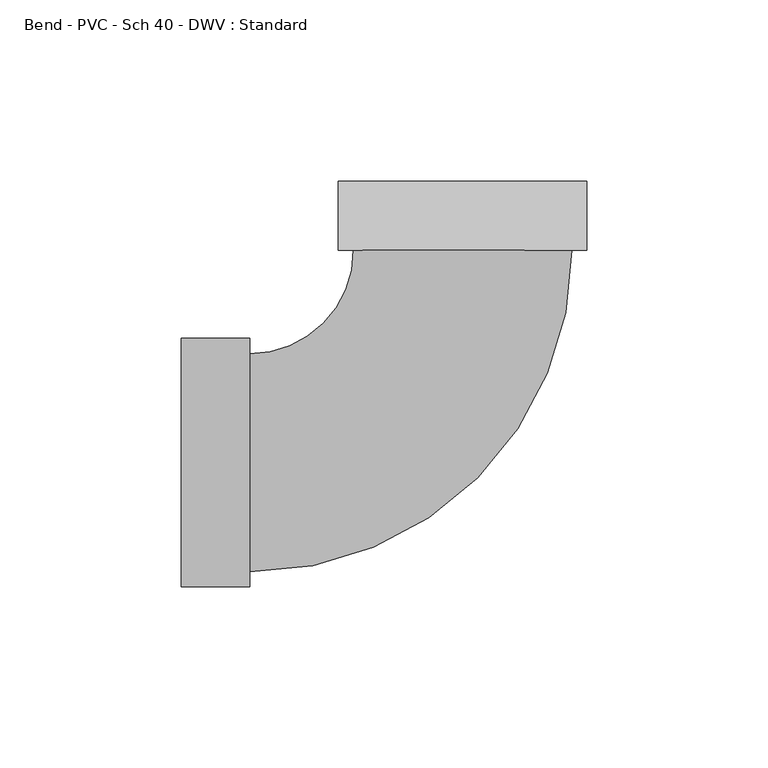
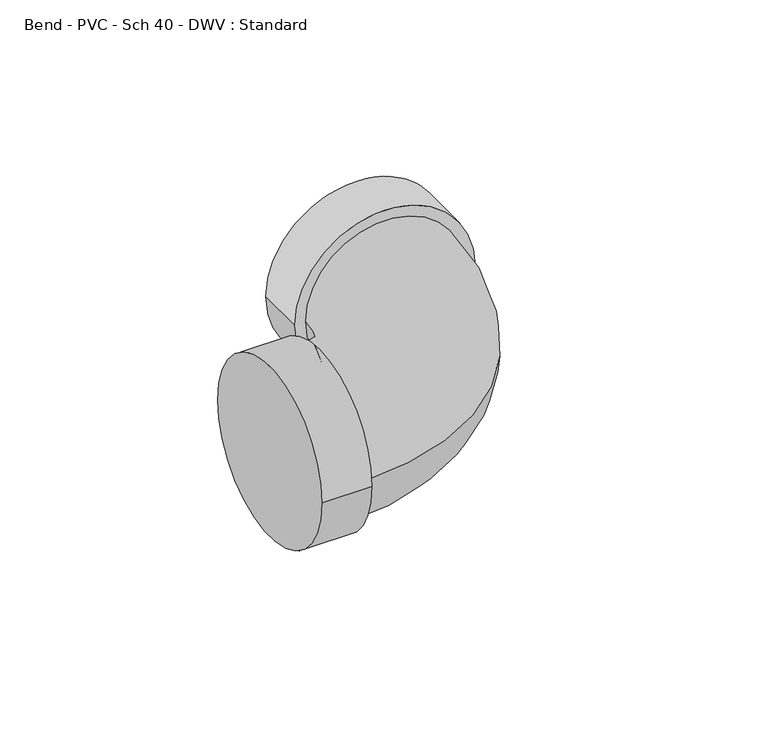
"""IFC4 building model written with IfcOpenShell, lengths in millimetres: pipe fitting geometry, Bend - PVC - Sch 40 - DWV : Standard."""

from ifc_helpers import new_model, si_unit, point, frame, origin, place, context, project, spatial, circle_curve, ellipse_curve, trimmed, source, transform, mapped, element, save
from ifc_brep_helpers import plane_surface, cylinder_surface, revolved_surface, advanced_brep


def bend_pvc_sch_40_dwv_standard_5ef2511e(model_context):
    return source(origin(), model_context, "Body", "AdvancedBrep", [
        advanced_brep(
        [(-77.8002, -34.3154, 0.0), (-77.8002, 34.3154, 0.0), (-58.7502, -34.3154, 0.0), (-58.7502, 34.3154, 0.0), (-58.7502, -30.1625, 0.0), (-58.7502, 30.1625, 0.0), (-30.1605247, 58.7512141, 0.0), (30.1644752, 58.7491859, 0.0), (34.3173752, 58.7490463, 0.0), (-34.3134247, 58.7513537, 0.0), (34.3180157, 77.7990462, 0.0), (-34.3127843, 77.8013537, 0.0)],
        [
            (0, 1, circle_curve(frame((-77.8002, 0.0, 0.0), z_axis=(-1.0, 0.0, 0.0), x_axis=(0.0, 1.0, 0.0)), 34.3154)),
            (1, 0, circle_curve(frame((-77.8002, 0.0, 0.0), z_axis=(-1.0, 0.0, 0.0), x_axis=(0.0, 1.0, 0.0)), 34.3154)),
            (2, 3, circle_curve(frame((-58.7502, 0.0, 0.0), z_axis=(1.0, 0.0, 0.0), x_axis=(0.0, 1.0, 0.0)), 34.3154)),
            (3, 2, circle_curve(frame((-58.7502, 0.0, 0.0), z_axis=(1.0, 0.0, 0.0), x_axis=(0.0, 1.0, 0.0)), 34.3154)),
            (4, 5, circle_curve(frame((-58.7502, 0.0, 0.0), z_axis=(-1.0, 0.0, 0.0), x_axis=(0.0, 1.0, 0.0)), 30.1625)),
            (5, 4, circle_curve(frame((-58.7502, 0.0, 0.0), z_axis=(-1.0, 0.0, 0.0), x_axis=(0.0, 1.0, 0.0)), 30.1625)),
            (0, 2),
            (3, 1),
            (6, 5, circle_curve(frame((-58.7502, 58.7521753, 0.0), z_axis=(0.0, 0.0, -1.0), x_axis=(0.0, -1.0, 0.0)), 28.5896753)),
            (4, 7, circle_curve(frame((-58.7502, 58.7521753, 0.0), z_axis=(0.0, 0.0, 1.0), x_axis=(0.0, -1.0, 0.0)), 88.9146753)),
            (7, 6, circle_curve(frame((0.0019752, 58.7502, 0.0), z_axis=(-3.3620906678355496e-05, -0.9999999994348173, 0.0), x_axis=(-0.9999999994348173, 3.3620906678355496e-05, 0.0)), 30.1625)),
            (6, 7, circle_curve(frame((0.0019752, 58.7502, 0.0), z_axis=(-3.3620906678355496e-05, -0.9999999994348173, 0.0), x_axis=(-0.9999999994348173, 3.3620906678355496e-05, 0.0)), 30.1625)),
            (8, 9, circle_curve(frame((0.0019752, 58.7502, 0.0), z_axis=(-3.362090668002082e-05, -0.9999999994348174, 0.0), x_axis=(-0.9999999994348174, 3.362090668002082e-05, 0.0)), 34.3154)),
            (9, 8, circle_curve(frame((0.0019752, 58.7502, 0.0), z_axis=(-3.362090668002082e-05, -0.9999999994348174, 0.0), x_axis=(-0.9999999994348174, 3.362090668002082e-05, 0.0)), 34.3154)),
            (10, 11, circle_curve(frame((0.0026157, 77.8002, 0.0), z_axis=(3.362090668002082e-05, 0.9999999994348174, 0.0), x_axis=(-0.9999999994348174, 3.362090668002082e-05, 0.0)), 34.3154)),
            (11, 10, circle_curve(frame((0.0026157, 77.8002, 0.0), z_axis=(3.362090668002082e-05, 0.9999999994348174, 0.0), x_axis=(-0.9999999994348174, 3.362090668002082e-05, 0.0)), 34.3154)),
            (8, 10),
            (11, 9),
        ],
        [
            plane_surface(frame((-77.8002, 0.0, 0.0), z_axis=(-1.0, 0.0, 0.0), x_axis=(0.0, 0.0, 1.0))),
            plane_surface(frame((-58.7502, 0.0, 0.0), z_axis=(1.0, 0.0, 0.0), x_axis=(0.0, 0.0, 1.0))),
            cylinder_surface(frame((-77.8002, 0.0, 0.0), z_axis=(-1.0, 0.0, 0.0), x_axis=(0.0, 1.0, 0.0)), 34.3154),
            revolved_surface(trimmed(ellipse_curve(frame((-58.7502, 0.0, 0.0), z_axis=(-1.0, 0.0, 0.0), x_axis=(0.0, 1.0, 0.0)), 30.1625, 30.1625), [point((-58.7502, -30.1625, 0.0))], [point((-58.7502, 30.1625, 0.0))], True, "CARTESIAN"), (-58.7502, 58.7521753, 0.0), (0.0, 0.0, 1.0)),
            revolved_surface(trimmed(ellipse_curve(frame((-58.7502, 0.0, 0.0), z_axis=(-1.0, 0.0, 0.0), x_axis=(0.0, 1.0, 0.0)), 30.1625, 30.1625), [point((-58.7502, 30.1625, 0.0))], [point((-58.7502, -30.1625, 0.0))], True, "CARTESIAN"), (-58.7502, 58.7521753, 0.0), (0.0, 0.0, 1.0)),
            plane_surface(frame((0.0019752, 58.7502, 0.0), z_axis=(-3.362090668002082e-05, -0.9999999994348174, 0.0), x_axis=(0.0, 0.0, 1.0))),
            plane_surface(frame((0.0026157, 77.8002, 0.0), z_axis=(3.362090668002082e-05, 0.9999999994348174, 0.0), x_axis=(0.0, 0.0, 1.0))),
            cylinder_surface(frame((0.0019752, 58.7502, 0.0), z_axis=(-3.362090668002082e-05, -0.9999999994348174, 0.0), x_axis=(-0.9999999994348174, 3.362090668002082e-05, 0.0)), 34.3154),
        ],
        [
            (0, [[1, 2]]),
            (1, [[3, 4], [5, 6]]),
            (2, [[-1, 7, -4, 8]]),
            (2, [[-2, -8, -3, -7]]),
            (3, [[9, -5, 10, 11]]),
            (4, [[-9, 12, -10, -6]]),
            (5, [[13, 14], [-11, -12]]),
            (6, [[15, 16]]),
            (7, [[-13, 17, -16, 18]]),
            (7, [[-14, -18, -15, -17]]),
        ],
    ),
    ])


if __name__ == "__main__":
    model = new_model("IFC4")
    model_context = context("Model", 3, world=origin())
    ifc_project = project(units=[si_unit("LENGTHUNIT", "METRE", prefix="MILLI")], contexts=[model_context])
    site = spatial("IfcSite", under=ifc_project)
    building = spatial("IfcBuilding", under=site)
    placement = place(None, origin())
    bend_pvc_sch_40_dwv_standard_shape = bend_pvc_sch_40_dwv_standard_5ef2511e(model_context)
    element("IfcPipeFitting", 1, ObjectType="Bend - PVC - Sch 40 - DWV : Standard", at=placement, inside=building, context=model_context, shape_type="MappedRepresentation", body=[
        mapped(bend_pvc_sch_40_dwv_standard_shape, transform((0.0, 0.0, 0.0), x_axis=(1.0, 0.0, 0.0), y_axis=(0.0, 1.0, 0.0), z_axis=(0.0, 0.0, 1.0))),
    ])
    save(model, "model.ifc")
